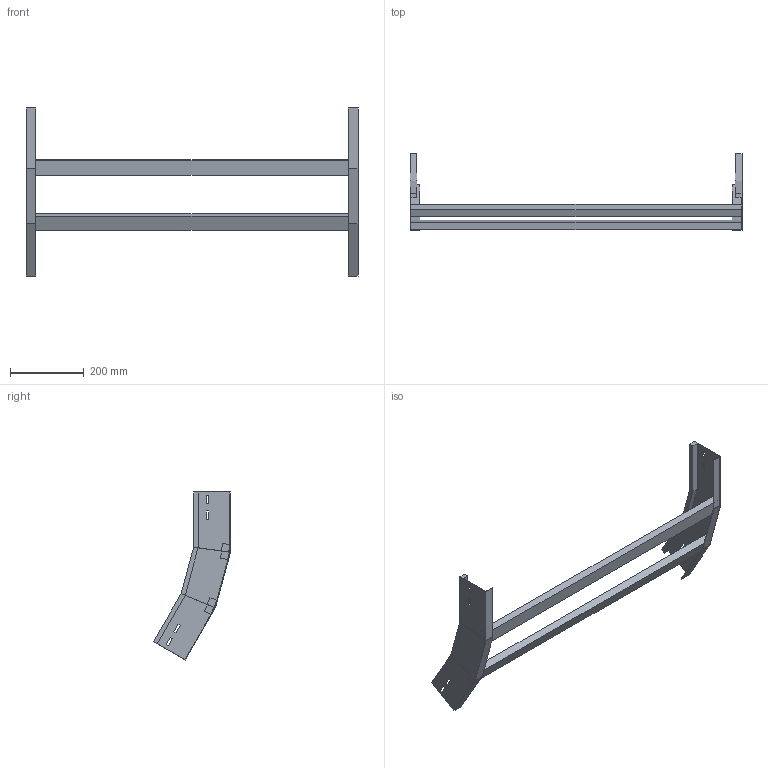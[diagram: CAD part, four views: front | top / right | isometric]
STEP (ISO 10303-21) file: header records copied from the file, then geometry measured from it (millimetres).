
FILE_DESCRIPTION (( 'STEP AP214' ), '1' );
FILE_NAME ('A2X32B5D900XX.step', '2025-03-20T09:57:54', ( '' ), ( '' ), 'SwSTEP 2.0', 'SolidWorks 2023', '' );
FILE_SCHEMA (( 'AUTOMOTIVE_DESIGN' ));
Length unit declared in the file: millimetre
Products named in the file (3): LONGH.SALITA_30°_H100_R500; TRAVERSINO_900; A2X32B5D900XX
Assembly tree (4 placements, depth 2):
  A2X32B5D900XX
    LONGH.SALITA_30°_H100_R500  x2
    TRAVERSINO_900  x2
Bounding box: 900 x 208.63 x 455.43 mm (x, y, z)
Volume: 1846081 mm3; surface area: 482387.6 mm2
Topology: 4 solids, 4 shells, 96 faces, 232 edges, 144 vertices
Faces by surface type: plane 96
Entity records: 1472 total; most frequent: CARTESIAN_POINT 243, ORIENTED_EDGE 232, DIRECTION 226, EDGE_CURVE 116, LINE 116, VECTOR 116, VERTEX_POINT 72, EDGE_LOOP 56
